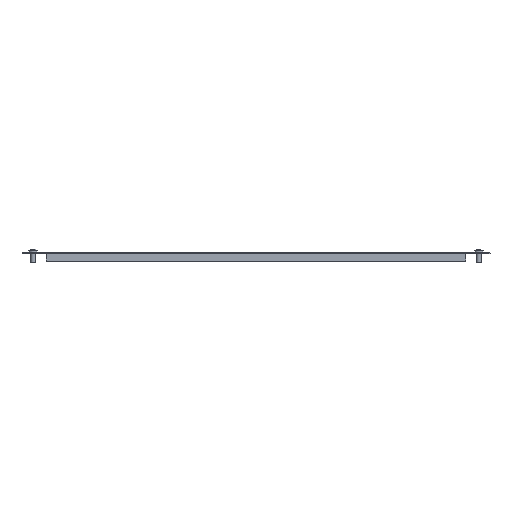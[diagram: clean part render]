
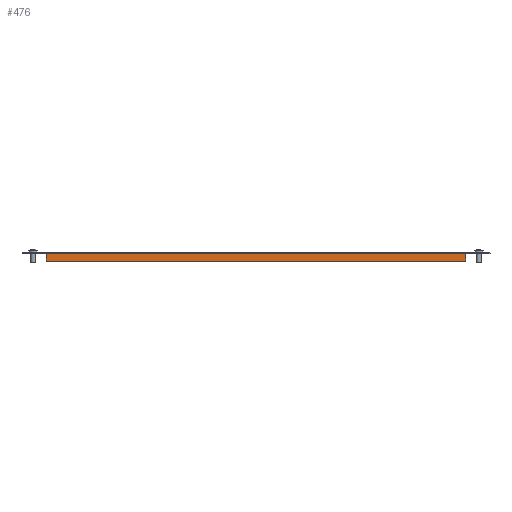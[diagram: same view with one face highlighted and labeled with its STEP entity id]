
A CAD part, front view. The second image highlights one B-rep face of the part: STEP entity #476.
In plain terms, the highlighted planar face has unit normal (0, -1, 0).
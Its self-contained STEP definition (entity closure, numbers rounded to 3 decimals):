
#25 = LINE ( 'NONE', #3418, #3952 ) ;
#39 = DIRECTION ( 'NONE',  ( 0., -1., 0. ) ) ;
#175 = ORIENTED_EDGE ( 'NONE', *, *, #1652, .F. ) ;
#180 = CARTESIAN_POINT ( 'NONE',  ( 235.5, -435., -10. ) ) ;
#197 = CARTESIAN_POINT ( 'NONE',  ( -235.5, -435., -10. ) ) ;
#374 = VERTEX_POINT ( 'NONE', #1297 ) ;
#379 = EDGE_CURVE ( 'NONE', #702, #374, #3163, .T. ) ;
#476 = ADVANCED_FACE ( 'NONE', ( #745 ), #1728, .T. ) ;
#645 = CARTESIAN_POINT ( 'NONE',  ( 235.5, -435., -10. ) ) ;
#702 = VERTEX_POINT ( 'NONE', #3272 ) ;
#745 = FACE_OUTER_BOUND ( 'NONE', #3078, .T. ) ;
#939 = AXIS2_PLACEMENT_3D ( 'NONE', #3118, #39, #3480 ) ;
#1022 = DIRECTION ( 'NONE',  ( 0., 0., 1. ) ) ;
#1111 = EDGE_CURVE ( 'NONE', #3792, #2406, #3056, .T. ) ;
#1262 = CARTESIAN_POINT ( 'NONE',  ( -235.5, -435., 0. ) ) ;
#1285 = VECTOR ( 'NONE', #2334, 1000. ) ;
#1288 = VECTOR ( 'NONE', #3065, 1000. ) ;
#1297 = CARTESIAN_POINT ( 'NONE',  ( 235.5, -435., 0. ) ) ;
#1486 = VERTEX_POINT ( 'NONE', #180 ) ;
#1519 = ORIENTED_EDGE ( 'NONE', *, *, #3066, .F. ) ;
#1548 = LINE ( 'NONE', #1895, #4249 ) ;
#1652 = EDGE_CURVE ( 'NONE', #2348, #3792, #3694, .T. ) ;
#1687 = DIRECTION ( 'NONE',  ( -1., 0., 0. ) ) ;
#1728 = PLANE ( 'NONE',  #939 ) ;
#1895 = CARTESIAN_POINT ( 'NONE',  ( -235.5, -435., -10. ) ) ;
#1897 = ORIENTED_EDGE ( 'NONE', *, *, #2462, .F. ) ;
#1948 = CARTESIAN_POINT ( 'NONE',  ( -235.5, -435., -1.8 ) ) ;
#2066 = LINE ( 'NONE', #645, #1288 ) ;
#2318 = CARTESIAN_POINT ( 'NONE',  ( -235.5, -435., -2.4 ) ) ;
#2334 = DIRECTION ( 'NONE',  ( 0., 0., 1. ) ) ;
#2348 = VERTEX_POINT ( 'NONE', #197 ) ;
#2358 = ORIENTED_EDGE ( 'NONE', *, *, #1111, .F. ) ;
#2359 = ORIENTED_EDGE ( 'NONE', *, *, #3962, .T. ) ;
#2406 = VERTEX_POINT ( 'NONE', #3409 ) ;
#2462 = EDGE_CURVE ( 'NONE', #702, #1486, #2066, .T. ) ;
#2570 = DIRECTION ( 'NONE',  ( 0., 0., 1. ) ) ;
#2684 = CARTESIAN_POINT ( 'NONE',  ( 235.5, -435., -2.4 ) ) ;
#2796 = VECTOR ( 'NONE', #1022, 1000. ) ;
#3056 = LINE ( 'NONE', #1262, #1285 ) ;
#3065 = DIRECTION ( 'NONE',  ( 0., 0., -1. ) ) ;
#3066 = EDGE_CURVE ( 'NONE', #1486, #2348, #1548, .T. ) ;
#3078 = EDGE_LOOP ( 'NONE', ( #1897, #4169, #2359, #2358, #175, #1519 ) ) ;
#3118 = CARTESIAN_POINT ( 'NONE',  ( 0., -435., 0. ) ) ;
#3163 = LINE ( 'NONE', #2684, #2796 ) ;
#3244 = VECTOR ( 'NONE', #2570, 1000. ) ;
#3272 = CARTESIAN_POINT ( 'NONE',  ( 235.5, -435., -2.4 ) ) ;
#3409 = CARTESIAN_POINT ( 'NONE',  ( -235.5, -435., 0. ) ) ;
#3418 = CARTESIAN_POINT ( 'NONE',  ( 0., -435., 0. ) ) ;
#3480 = DIRECTION ( 'NONE',  ( 0., 0., -1. ) ) ;
#3694 = LINE ( 'NONE', #1948, #3244 ) ;
#3792 = VERTEX_POINT ( 'NONE', #2318 ) ;
#3952 = VECTOR ( 'NONE', #1687, 1000. ) ;
#3962 = EDGE_CURVE ( 'NONE', #374, #2406, #25, .T. ) ;
#4071 = DIRECTION ( 'NONE',  ( -1., 0., 0. ) ) ;
#4169 = ORIENTED_EDGE ( 'NONE', *, *, #379, .T. ) ;
#4249 = VECTOR ( 'NONE', #4071, 1000. ) ;
